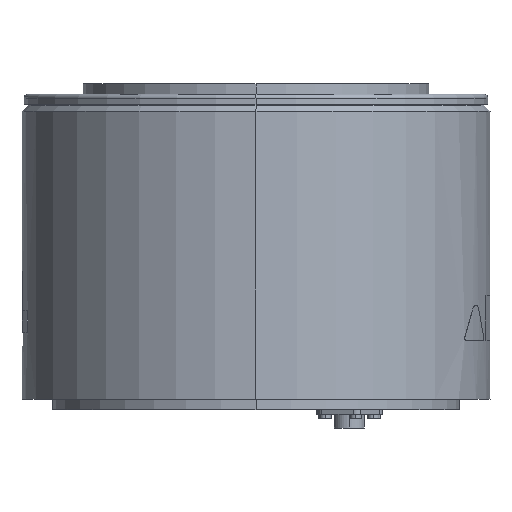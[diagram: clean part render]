
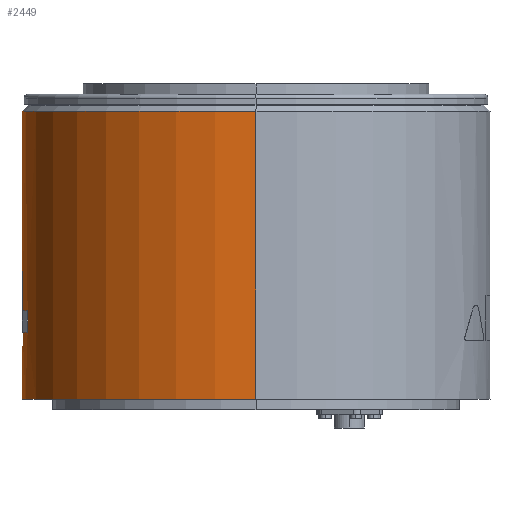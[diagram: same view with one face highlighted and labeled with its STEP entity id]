
A CAD part, left-side view. The second image highlights one B-rep face of the part: STEP entity #2449.
In plain terms, the highlighted cylindrical face has radius 115 mm (diameter 230 mm), a partial arc.
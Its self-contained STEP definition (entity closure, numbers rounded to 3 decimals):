
#1507 = CARTESIAN_POINT ( 'NONE',  ( -25., 112.25, 38. ) ) ;
#1514 = CARTESIAN_POINT ( 'NONE',  ( 115., 0., 146.5 ) ) ;
#1520 = CARTESIAN_POINT ( 'NONE',  ( -25., 112.25, 48.5 ) ) ;
#1533 = CARTESIAN_POINT ( 'NONE',  ( 115., 0., 5. ) ) ;
#1543 = CARTESIAN_POINT ( 'NONE',  ( 25., 112.25, 38. ) ) ;
#1662 = ORIENTED_EDGE ( 'NONE', *, *, #7358, .F. ) ;
#1800 = ORIENTED_EDGE ( 'NONE', *, *, #7360, .F. ) ;
#1807 = ORIENTED_EDGE ( 'NONE', *, *, #7352, .T. ) ;
#1832 = ORIENTED_EDGE ( 'NONE', *, *, #7357, .F. ) ;
#1849 = ORIENTED_EDGE ( 'NONE', *, *, #7359, .F. ) ;
#1852 = ORIENTED_EDGE ( 'NONE', *, *, #7348, .F. ) ;
#1874 = ORIENTED_EDGE ( 'NONE', *, *, #7356, .T. ) ;
#1875 = ORIENTED_EDGE ( 'NONE', *, *, #7361, .F. ) ;
#2189 = VERTEX_POINT ( 'NONE', #6078 ) ;
#2449 = ADVANCED_FACE ( 'NONE', ( #5663, #5674 ), #5668, .T. ) ;
#3328 = AXIS2_PLACEMENT_3D ( 'NONE', #9785, #9793, #9794 ) ;
#3330 = AXIS2_PLACEMENT_3D ( 'NONE', #9788, #9790, #9791 ) ;
#3335 = AXIS2_PLACEMENT_3D ( 'NONE', #9789, #9798, #9799 ) ;
#3336 = AXIS2_PLACEMENT_3D ( 'NONE', #9792, #9802, #9803 ) ;
#3784 = CARTESIAN_POINT ( 'NONE',  ( -115., 0., 5. ) ) ;
#3816 = CARTESIAN_POINT ( 'NONE',  ( 25., 112.25, 48.5 ) ) ;
#4747 = EDGE_LOOP ( 'NONE', ( #1662, #1832, #1852, #1849 ) ) ;
#4771 = EDGE_LOOP ( 'NONE', ( #1874, #1807, #1875, #1800 ) ) ;
#4997 = VERTEX_POINT ( 'NONE', #3784 ) ;
#5023 = VERTEX_POINT ( 'NONE', #3816 ) ;
#5594 = DIRECTION ( 'NONE',  ( -1., 0., 0. ) ) ;
#5595 = DIRECTION ( 'NONE',  ( 0., 0., -1. ) ) ;
#5596 = CARTESIAN_POINT ( 'NONE',  ( 0., 0., 0. ) ) ;
#5663 = FACE_BOUND ( 'NONE', #4747, .T. ) ;
#5668 = CYLINDRICAL_SURFACE ( 'NONE', #7187, 115. ) ;
#5674 = FACE_OUTER_BOUND ( 'NONE', #4771, .T. ) ;
#6078 = CARTESIAN_POINT ( 'NONE',  ( -115., 0., 146.5 ) ) ;
#7187 = AXIS2_PLACEMENT_3D ( 'NONE', #5596, #5595, #5594 ) ;
#7348 = EDGE_CURVE ( 'NONE', #5023, #8755, #9473, .T. ) ;
#7352 = EDGE_CURVE ( 'NONE', #8726, #8745, #9483, .T. ) ;
#7356 = EDGE_CURVE ( 'NONE', #2189, #8726, #9490, .T. ) ;
#7357 = EDGE_CURVE ( 'NONE', #8755, #8719, #9492, .T. ) ;
#7358 = EDGE_CURVE ( 'NONE', #8719, #8732, #9488, .T. ) ;
#7359 = EDGE_CURVE ( 'NONE', #8732, #5023, #9494, .T. ) ;
#7360 = EDGE_CURVE ( 'NONE', #2189, #4997, #9487, .T. ) ;
#7361 = EDGE_CURVE ( 'NONE', #4997, #8745, #9497, .T. ) ;
#8719 = VERTEX_POINT ( 'NONE', #1507 ) ;
#8726 = VERTEX_POINT ( 'NONE', #1514 ) ;
#8732 = VERTEX_POINT ( 'NONE', #1520 ) ;
#8745 = VERTEX_POINT ( 'NONE', #1533 ) ;
#8755 = VERTEX_POINT ( 'NONE', #1543 ) ;
#9473 = LINE ( 'NONE', #9703, #9475 ) ;
#9475 = VECTOR ( 'NONE', #9770, 1000. ) ;
#9483 = LINE ( 'NONE', #9779, #9484 ) ;
#9484 = VECTOR ( 'NONE', #9780, 1000. ) ;
#9487 = LINE ( 'NONE', #9800, #9491 ) ;
#9488 = LINE ( 'NONE', #9795, #9489 ) ;
#9489 = VECTOR ( 'NONE', #9796, 1000. ) ;
#9490 = CIRCLE ( 'NONE', #3330, 115. ) ;
#9491 = VECTOR ( 'NONE', #9801, 1000. ) ;
#9492 = CIRCLE ( 'NONE', #3328, 115. ) ;
#9494 = CIRCLE ( 'NONE', #3335, 115. ) ;
#9497 = CIRCLE ( 'NONE', #3336, 115. ) ;
#9703 = CARTESIAN_POINT ( 'NONE',  ( 25., 112.25, 0. ) ) ;
#9770 = DIRECTION ( 'NONE',  ( 0., 0., -1. ) ) ;
#9779 = CARTESIAN_POINT ( 'NONE',  ( 115., 0., 0. ) ) ;
#9780 = DIRECTION ( 'NONE',  ( 0., 0., -1. ) ) ;
#9785 = CARTESIAN_POINT ( 'NONE',  ( 0., 0., 38. ) ) ;
#9788 = CARTESIAN_POINT ( 'NONE',  ( 0., 0., 146.5 ) ) ;
#9789 = CARTESIAN_POINT ( 'NONE',  ( 0., 0., 48.5 ) ) ;
#9790 = DIRECTION ( 'NONE',  ( 0., 0., -1. ) ) ;
#9791 = DIRECTION ( 'NONE',  ( -1., 0., 0. ) ) ;
#9792 = CARTESIAN_POINT ( 'NONE',  ( 0., 0., 5. ) ) ;
#9793 = DIRECTION ( 'NONE',  ( 0., 0., 1. ) ) ;
#9794 = DIRECTION ( 'NONE',  ( -1., 0., 0. ) ) ;
#9795 = CARTESIAN_POINT ( 'NONE',  ( -25., 112.25, 0. ) ) ;
#9796 = DIRECTION ( 'NONE',  ( 0., 0., 1. ) ) ;
#9798 = DIRECTION ( 'NONE',  ( 0., 0., -1. ) ) ;
#9799 = DIRECTION ( 'NONE',  ( 1., 0., 0. ) ) ;
#9800 = CARTESIAN_POINT ( 'NONE',  ( -115., 0., 0. ) ) ;
#9801 = DIRECTION ( 'NONE',  ( 0., 0., -1. ) ) ;
#9802 = DIRECTION ( 'NONE',  ( 0., 0., -1. ) ) ;
#9803 = DIRECTION ( 'NONE',  ( -1., 0., 0. ) ) ;
